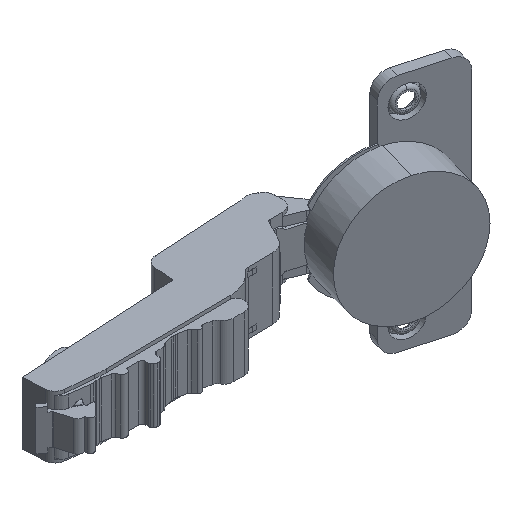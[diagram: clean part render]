
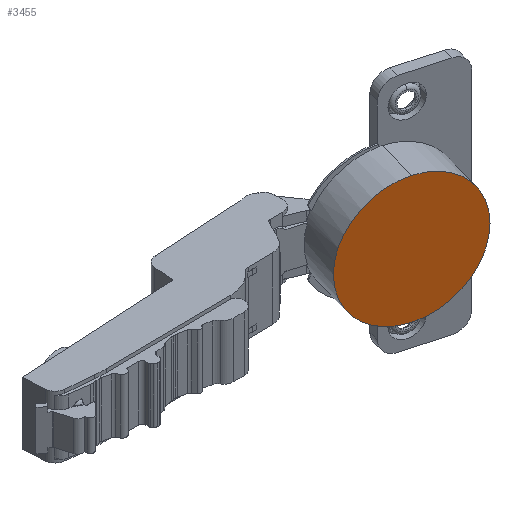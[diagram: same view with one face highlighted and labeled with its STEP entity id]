
A CAD part, isometric view. The second image highlights one B-rep face of the part: STEP entity #3455.
In plain terms, the highlighted planar face has unit normal (-0.267, -0.964, 0).
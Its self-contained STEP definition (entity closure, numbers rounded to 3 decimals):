
#470 = ORIENTED_EDGE ( 'NONE', *, *, #6447, .T. ) ;
#665 = ORIENTED_EDGE ( 'NONE', *, *, #4645, .T. ) ;
#1022 = FACE_OUTER_BOUND ( 'NONE', #1593, .T. ) ;
#1313 = CARTESIAN_POINT ( 'NONE',  ( -5.374, -17.232, 0. ) ) ;
#1593 = EDGE_LOOP ( 'NONE', ( #470, #665 ) ) ;
#2205 = PLANE ( 'NONE',  #3088 ) ;
#2697 = DIRECTION ( 'NONE',  ( 0.964, -0.267, 0. ) ) ;
#2872 = CIRCLE ( 'NONE', #2996, 17.4 ) ;
#2996 = AXIS2_PLACEMENT_3D ( 'NONE', #5627, #6942, #3689 ) ;
#3088 = AXIS2_PLACEMENT_3D ( 'NONE', #7167, #3510, #4199 ) ;
#3344 = CIRCLE ( 'NONE', #7948, 17.4 ) ;
#3455 = ADVANCED_FACE ( 'NONE', ( #1022 ), #2205, .F. ) ;
#3510 = DIRECTION ( 'NONE',  ( 0.267, 0.964, 0. ) ) ;
#3689 = DIRECTION ( 'NONE',  ( 0.964, -0.267, 0. ) ) ;
#3716 = VERTEX_POINT ( 'NONE', #4518 ) ;
#3911 = DIRECTION ( 'NONE',  ( -0.267, -0.964, 0. ) ) ;
#4199 = DIRECTION ( 'NONE',  ( 0., 0., 1. ) ) ;
#4518 = CARTESIAN_POINT ( 'NONE',  ( -5.374, -17.232, 17.4 ) ) ;
#4645 = EDGE_CURVE ( 'NONE', #4739, #3716, #3344, .T. ) ;
#4739 = VERTEX_POINT ( 'NONE', #6717 ) ;
#5627 = CARTESIAN_POINT ( 'NONE',  ( -5.374, -17.232, 0. ) ) ;
#6447 = EDGE_CURVE ( 'NONE', #3716, #4739, #2872, .T. ) ;
#6717 = CARTESIAN_POINT ( 'NONE',  ( -5.374, -17.232, -17.4 ) ) ;
#6942 = DIRECTION ( 'NONE',  ( -0.267, -0.964, 0. ) ) ;
#7167 = CARTESIAN_POINT ( 'NONE',  ( 5.194, -20.163, -7.7 ) ) ;
#7948 = AXIS2_PLACEMENT_3D ( 'NONE', #1313, #3911, #2697 ) ;
